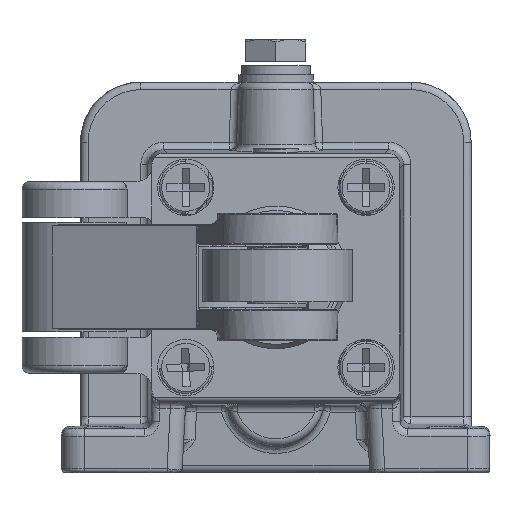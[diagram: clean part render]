
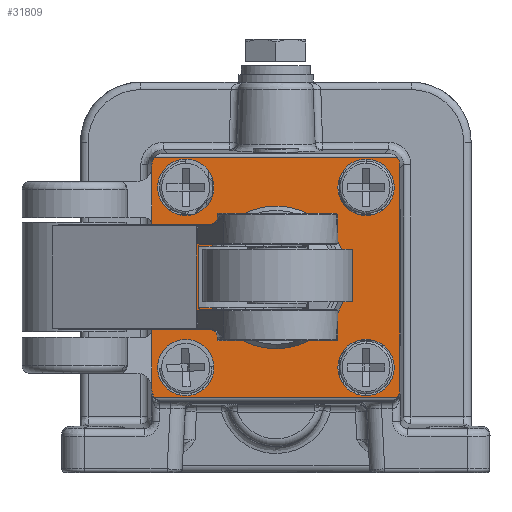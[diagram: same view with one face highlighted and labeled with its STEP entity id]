
A CAD part, left-side view. The second image highlights one B-rep face of the part: STEP entity #31809.
In plain terms, the highlighted planar face has unit normal (-1, 0, 0).
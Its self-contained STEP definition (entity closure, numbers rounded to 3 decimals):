
#31602=CARTESIAN_POINT('',(-70.603,0.,0.));
#31603=DIRECTION('',(1.0,0.0,0.0));
#31604=DIRECTION('',(0.0,0.0,-1.0));
#31605=AXIS2_PLACEMENT_3D('',#31602,#31603,#31604);
#31606=PLANE('',#31605);
#31607=CARTESIAN_POINT('',(-70.603,16.118,16.));
#31608=VERTEX_POINT('',#31607);
#31609=CARTESIAN_POINT('',(-70.603,16.5,15.));
#31610=VERTEX_POINT('',#31609);
#31611=CARTESIAN_POINT('',(-70.603,15.,15.));
#31612=DIRECTION('',(-1.0,0.,0.));
#31613=DIRECTION('',(0.,0.745,0.667));
#31614=AXIS2_PLACEMENT_3D('',#31611,#31612,#31613);
#31615=CIRCLE('',#31614,1.5);
#31616=EDGE_CURVE('',#31608,#31610,#31615,.T.);
#31617=ORIENTED_EDGE('',*,*,#31616,.T.);
#31618=CARTESIAN_POINT('',(-70.603,16.5,14.75));
#31619=VERTEX_POINT('',#31618);
#31620=CARTESIAN_POINT('',(-70.603,16.5,15.));
#31621=DIRECTION('',(0.,0.0,-1.0));
#31622=VECTOR('',#31621,0.25);
#31623=LINE('',#31620,#31622);
#31624=EDGE_CURVE('',#31610,#31619,#31623,.T.);
#31625=ORIENTED_EDGE('',*,*,#31624,.T.);
#31626=CARTESIAN_POINT('',(-70.603,16.5,6.95));
#31627=VERTEX_POINT('',#31626);
#31628=CARTESIAN_POINT('',(-70.603,16.5,14.75));
#31629=DIRECTION('',(0.,0.,-1.0));
#31630=VECTOR('',#31629,7.8);
#31631=LINE('',#31628,#31630);
#31632=EDGE_CURVE('',#31619,#31627,#31631,.T.);
#31633=ORIENTED_EDGE('',*,*,#31632,.T.);
#31634=CARTESIAN_POINT('',(-70.603,16.5,-6.95));
#31635=VERTEX_POINT('',#31634);
#31636=CARTESIAN_POINT('',(-70.603,16.5,6.95));
#31637=DIRECTION('',(0.,0.,-1.0));
#31638=VECTOR('',#31637,13.9);
#31639=LINE('',#31636,#31638);
#31640=EDGE_CURVE('',#31627,#31635,#31639,.T.);
#31641=ORIENTED_EDGE('',*,*,#31640,.T.);
#31642=CARTESIAN_POINT('',(-70.603,16.5,-14.75));
#31643=VERTEX_POINT('',#31642);
#31644=CARTESIAN_POINT('',(-70.603,16.5,-6.95));
#31645=DIRECTION('',(0.,0.,-1.0));
#31646=VECTOR('',#31645,7.8);
#31647=LINE('',#31644,#31646);
#31648=EDGE_CURVE('',#31635,#31643,#31647,.T.);
#31649=ORIENTED_EDGE('',*,*,#31648,.T.);
#31650=CARTESIAN_POINT('',(-70.603,16.5,-15.));
#31651=VERTEX_POINT('',#31650);
#31652=CARTESIAN_POINT('',(-70.603,16.5,-15.));
#31653=DIRECTION('',(0.,0.0,1.0));
#31654=VECTOR('',#31653,0.25);
#31655=LINE('',#31652,#31654);
#31656=EDGE_CURVE('',#31651,#31643,#31655,.T.);
#31657=ORIENTED_EDGE('',*,*,#31656,.F.);
#31658=CARTESIAN_POINT('',(-70.603,16.118,-16.));
#31659=VERTEX_POINT('',#31658);
#31660=CARTESIAN_POINT('',(-70.603,15.,-15.));
#31661=DIRECTION('',(-1.0,0.0,0.0));
#31662=DIRECTION('',(0.0,1.0,0.0));
#31663=AXIS2_PLACEMENT_3D('',#31660,#31661,#31662);
#31664=CIRCLE('',#31663,1.5);
#31665=EDGE_CURVE('',#31651,#31659,#31664,.T.);
#31666=ORIENTED_EDGE('',*,*,#31665,.T.);
#31667=CARTESIAN_POINT('',(-70.603,-16.118,-16.));
#31668=VERTEX_POINT('',#31667);
#31669=CARTESIAN_POINT('',(-70.603,16.118,-16.));
#31670=DIRECTION('',(0.0,-1.0,0.0));
#31671=VECTOR('',#31670,32.236);
#31672=LINE('',#31669,#31671);
#31673=EDGE_CURVE('',#31659,#31668,#31672,.T.);
#31674=ORIENTED_EDGE('',*,*,#31673,.T.);
#31675=CARTESIAN_POINT('',(-70.603,-16.5,-15.));
#31676=VERTEX_POINT('',#31675);
#31677=CARTESIAN_POINT('',(-70.603,-15.,-15.));
#31678=DIRECTION('',(-1.0,0.,0.));
#31679=DIRECTION('',(0.,-0.745,-0.667));
#31680=AXIS2_PLACEMENT_3D('',#31677,#31678,#31679);
#31681=CIRCLE('',#31680,1.5);
#31682=EDGE_CURVE('',#31668,#31676,#31681,.T.);
#31683=ORIENTED_EDGE('',*,*,#31682,.T.);
#31684=CARTESIAN_POINT('',(-70.603,-16.5,15.));
#31685=VERTEX_POINT('',#31684);
#31686=CARTESIAN_POINT('',(-70.603,-16.5,15.));
#31687=DIRECTION('',(0.0,0.0,-1.0));
#31688=VECTOR('',#31687,30.0);
#31689=LINE('',#31686,#31688);
#31690=EDGE_CURVE('',#31685,#31676,#31689,.T.);
#31691=ORIENTED_EDGE('',*,*,#31690,.F.);
#31692=CARTESIAN_POINT('',(-70.603,-16.118,16.));
#31693=VERTEX_POINT('',#31692);
#31694=CARTESIAN_POINT('',(-70.603,-15.,15.));
#31695=DIRECTION('',(-1.0,0.0,0.0));
#31696=DIRECTION('',(0.0,-1.0,0.0));
#31697=AXIS2_PLACEMENT_3D('',#31694,#31695,#31696);
#31698=CIRCLE('',#31697,1.5);
#31699=EDGE_CURVE('',#31685,#31693,#31698,.T.);
#31700=ORIENTED_EDGE('',*,*,#31699,.T.);
#31701=CARTESIAN_POINT('',(-70.603,-16.118,16.));
#31702=DIRECTION('',(0.0,1.0,0.0));
#31703=VECTOR('',#31702,32.236);
#31704=LINE('',#31701,#31703);
#31705=EDGE_CURVE('',#31693,#31608,#31704,.T.);
#31706=ORIENTED_EDGE('',*,*,#31705,.T.);
#31707=EDGE_LOOP('',(#31617,#31625,#31633,#31641,#31649,#31657,#31666,#31674,#31683,#31691,#31700,#31706));
#31708=FACE_OUTER_BOUND('',#31707,.T.);
#31709=CARTESIAN_POINT('',(-70.603,-12.,-8.25));
#31710=VERTEX_POINT('',#31709);
#31711=CARTESIAN_POINT('',(-70.603,-12.,-15.75));
#31712=VERTEX_POINT('',#31711);
#31713=CARTESIAN_POINT('',(-70.603,-12.,-12.));
#31714=DIRECTION('',(1.0,0.0,0.0));
#31715=DIRECTION('',(0.0,0.0,1.0));
#31716=AXIS2_PLACEMENT_3D('',#31713,#31714,#31715);
#31717=CIRCLE('',#31716,3.75);
#31718=EDGE_CURVE('',#31710,#31712,#31717,.T.);
#31719=ORIENTED_EDGE('',*,*,#31718,.T.);
#31720=CARTESIAN_POINT('',(-70.603,-12.,-12.));
#31721=DIRECTION('',(1.0,0.0,0.0));
#31722=DIRECTION('',(0.0,0.0,-1.0));
#31723=AXIS2_PLACEMENT_3D('',#31720,#31721,#31722);
#31724=CIRCLE('',#31723,3.75);
#31725=EDGE_CURVE('',#31712,#31710,#31724,.T.);
#31726=ORIENTED_EDGE('',*,*,#31725,.T.);
#31727=EDGE_LOOP('',(#31719,#31726));
#31728=FACE_BOUND('',#31727,.T.);
#31729=CARTESIAN_POINT('',(-70.603,-12.,15.75));
#31730=VERTEX_POINT('',#31729);
#31731=CARTESIAN_POINT('',(-70.603,-12.,8.25));
#31732=VERTEX_POINT('',#31731);
#31733=CARTESIAN_POINT('',(-70.603,-12.,12.));
#31734=DIRECTION('',(1.0,0.0,0.0));
#31735=DIRECTION('',(0.0,0.0,1.0));
#31736=AXIS2_PLACEMENT_3D('',#31733,#31734,#31735);
#31737=CIRCLE('',#31736,3.75);
#31738=EDGE_CURVE('',#31730,#31732,#31737,.T.);
#31739=ORIENTED_EDGE('',*,*,#31738,.T.);
#31740=CARTESIAN_POINT('',(-70.603,-12.,12.));
#31741=DIRECTION('',(1.0,0.0,0.0));
#31742=DIRECTION('',(0.0,0.0,-1.0));
#31743=AXIS2_PLACEMENT_3D('',#31740,#31741,#31742);
#31744=CIRCLE('',#31743,3.75);
#31745=EDGE_CURVE('',#31732,#31730,#31744,.T.);
#31746=ORIENTED_EDGE('',*,*,#31745,.T.);
#31747=EDGE_LOOP('',(#31739,#31746));
#31748=FACE_BOUND('',#31747,.T.);
#31749=CARTESIAN_POINT('',(-70.603,12.,-8.25));
#31750=VERTEX_POINT('',#31749);
#31751=CARTESIAN_POINT('',(-70.603,12.,-15.75));
#31752=VERTEX_POINT('',#31751);
#31753=CARTESIAN_POINT('',(-70.603,12.,-12.));
#31754=DIRECTION('',(1.0,0.0,0.0));
#31755=DIRECTION('',(0.0,0.0,1.0));
#31756=AXIS2_PLACEMENT_3D('',#31753,#31754,#31755);
#31757=CIRCLE('',#31756,3.75);
#31758=EDGE_CURVE('',#31750,#31752,#31757,.T.);
#31759=ORIENTED_EDGE('',*,*,#31758,.T.);
#31760=CARTESIAN_POINT('',(-70.603,12.,-12.));
#31761=DIRECTION('',(1.0,0.0,0.0));
#31762=DIRECTION('',(0.0,0.0,-1.0));
#31763=AXIS2_PLACEMENT_3D('',#31760,#31761,#31762);
#31764=CIRCLE('',#31763,3.75);
#31765=EDGE_CURVE('',#31752,#31750,#31764,.T.);
#31766=ORIENTED_EDGE('',*,*,#31765,.T.);
#31767=EDGE_LOOP('',(#31759,#31766));
#31768=FACE_BOUND('',#31767,.T.);
#31769=CARTESIAN_POINT('',(-70.603,12.,15.75));
#31770=VERTEX_POINT('',#31769);
#31771=CARTESIAN_POINT('',(-70.603,12.,8.25));
#31772=VERTEX_POINT('',#31771);
#31773=CARTESIAN_POINT('',(-70.603,12.,12.));
#31774=DIRECTION('',(1.0,0.0,0.0));
#31775=DIRECTION('',(0.0,0.0,1.0));
#31776=AXIS2_PLACEMENT_3D('',#31773,#31774,#31775);
#31777=CIRCLE('',#31776,3.75);
#31778=EDGE_CURVE('',#31770,#31772,#31777,.T.);
#31779=ORIENTED_EDGE('',*,*,#31778,.T.);
#31780=CARTESIAN_POINT('',(-70.603,12.,12.));
#31781=DIRECTION('',(1.0,0.0,0.0));
#31782=DIRECTION('',(0.0,0.0,-1.0));
#31783=AXIS2_PLACEMENT_3D('',#31780,#31781,#31782);
#31784=CIRCLE('',#31783,3.75);
#31785=EDGE_CURVE('',#31772,#31770,#31784,.T.);
#31786=ORIENTED_EDGE('',*,*,#31785,.T.);
#31787=EDGE_LOOP('',(#31779,#31786));
#31788=FACE_BOUND('',#31787,.T.);
#31789=CARTESIAN_POINT('',(-70.603,9.5,0.));
#31790=VERTEX_POINT('',#31789);
#31791=CARTESIAN_POINT('',(-70.603,-9.5,0.));
#31792=VERTEX_POINT('',#31791);
#31793=CARTESIAN_POINT('',(-70.603,0.,0.));
#31794=DIRECTION('',(1.0,0.0,0.0));
#31795=DIRECTION('',(0.0,1.0,0.0));
#31796=AXIS2_PLACEMENT_3D('',#31793,#31794,#31795);
#31797=CIRCLE('',#31796,9.5);
#31798=EDGE_CURVE('',#31790,#31792,#31797,.T.);
#31799=ORIENTED_EDGE('',*,*,#31798,.T.);
#31800=CARTESIAN_POINT('',(-70.603,0.,0.));
#31801=DIRECTION('',(1.0,0.0,0.0));
#31802=DIRECTION('',(0.0,-1.0,0.0));
#31803=AXIS2_PLACEMENT_3D('',#31800,#31801,#31802);
#31804=CIRCLE('',#31803,9.5);
#31805=EDGE_CURVE('',#31792,#31790,#31804,.T.);
#31806=ORIENTED_EDGE('',*,*,#31805,.T.);
#31807=EDGE_LOOP('',(#31799,#31806));
#31808=FACE_BOUND('',#31807,.T.);
#31809=ADVANCED_FACE('',(#31708,#31728,#31748,#31768,#31788,#31808),#31606,.F.);
